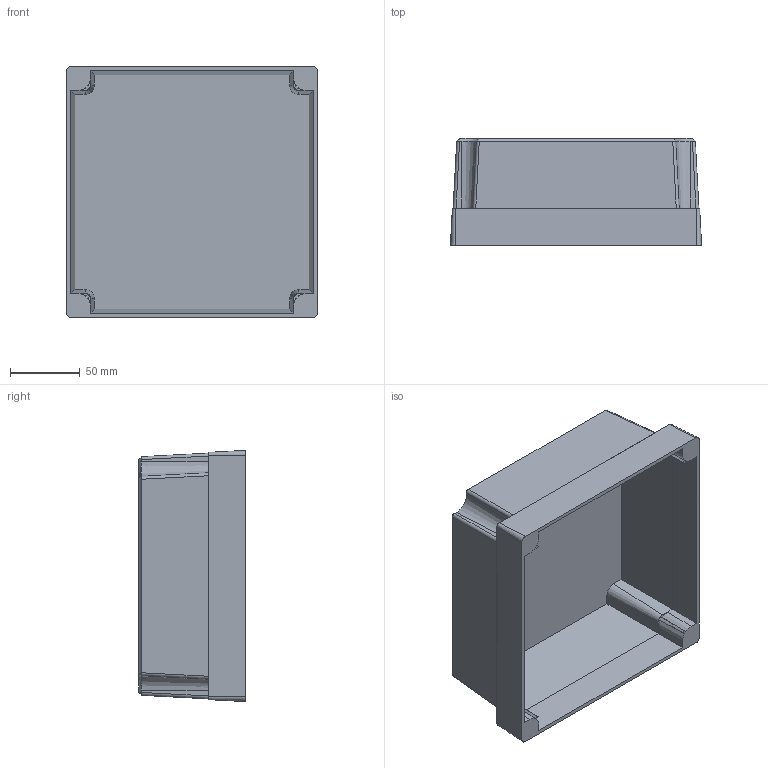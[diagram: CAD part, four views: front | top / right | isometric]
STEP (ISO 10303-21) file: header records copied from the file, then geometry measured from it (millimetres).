
FILE_DESCRIPTION (( 'STEP AP203' ), '1' );
FILE_NAME ('FIBOX_MNX17575C.STEP', '2005-06-30T06:45:20', ( ' ' ), ( ' ' ), 'SwSTEP 2.0', 'SolidWorks 2005143', '' );
FILE_SCHEMA (( 'CONFIG_CONTROL_DESIGN' ));
Length unit declared in the file: millimetre
Products named in the file (1): FIBOX_MNX17575C
Bounding box: 180 x 76.6 x 180 mm (x, y, z)
Volume: 183133.8 mm3; surface area: 163739.9 mm2
Topology: 1 solids, 1 shells, 119 faces, 320 edges, 210 vertices
Faces by surface type: plane 73, cone 24, cylinder 20, bspline 2
Entity records: 6717 total; most frequent: CARTESIAN_POINT 3726, ORIENTED_EDGE 640, DIRECTION 566, EDGE_CURVE 320, VERTEX_POINT 210, AXIS2_PLACEMENT_3D 194, VECTOR 178, LINE 178
